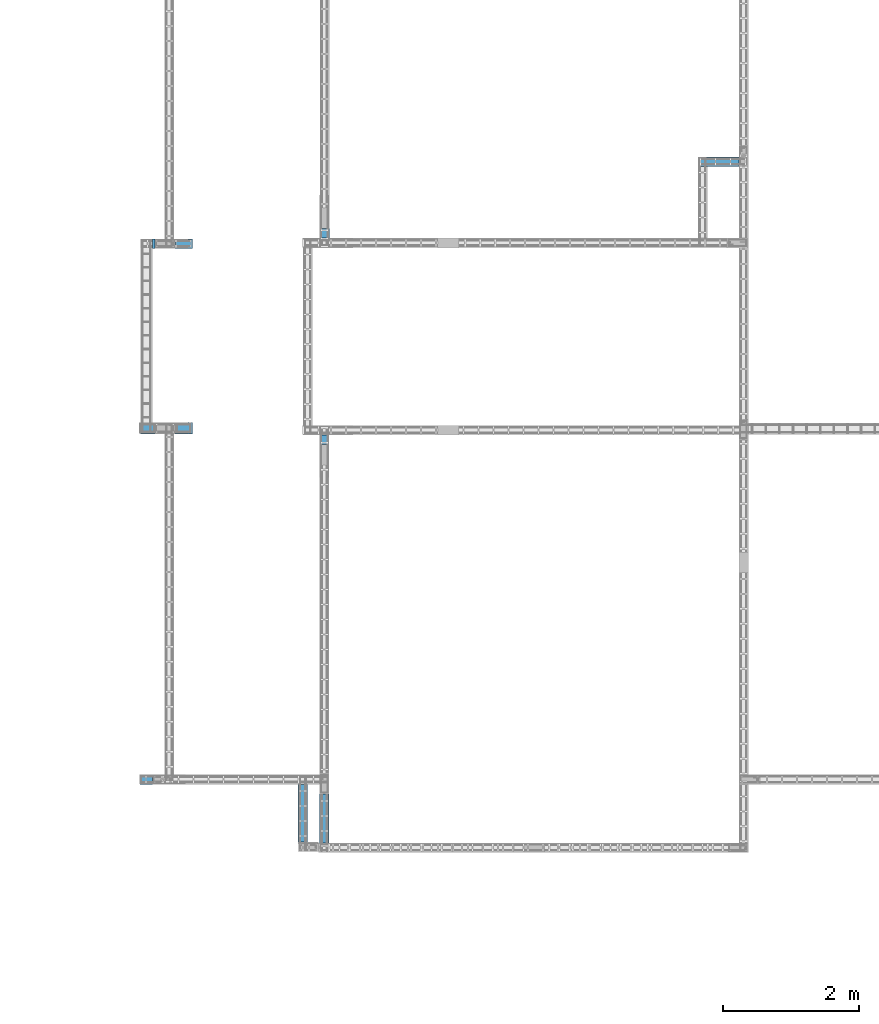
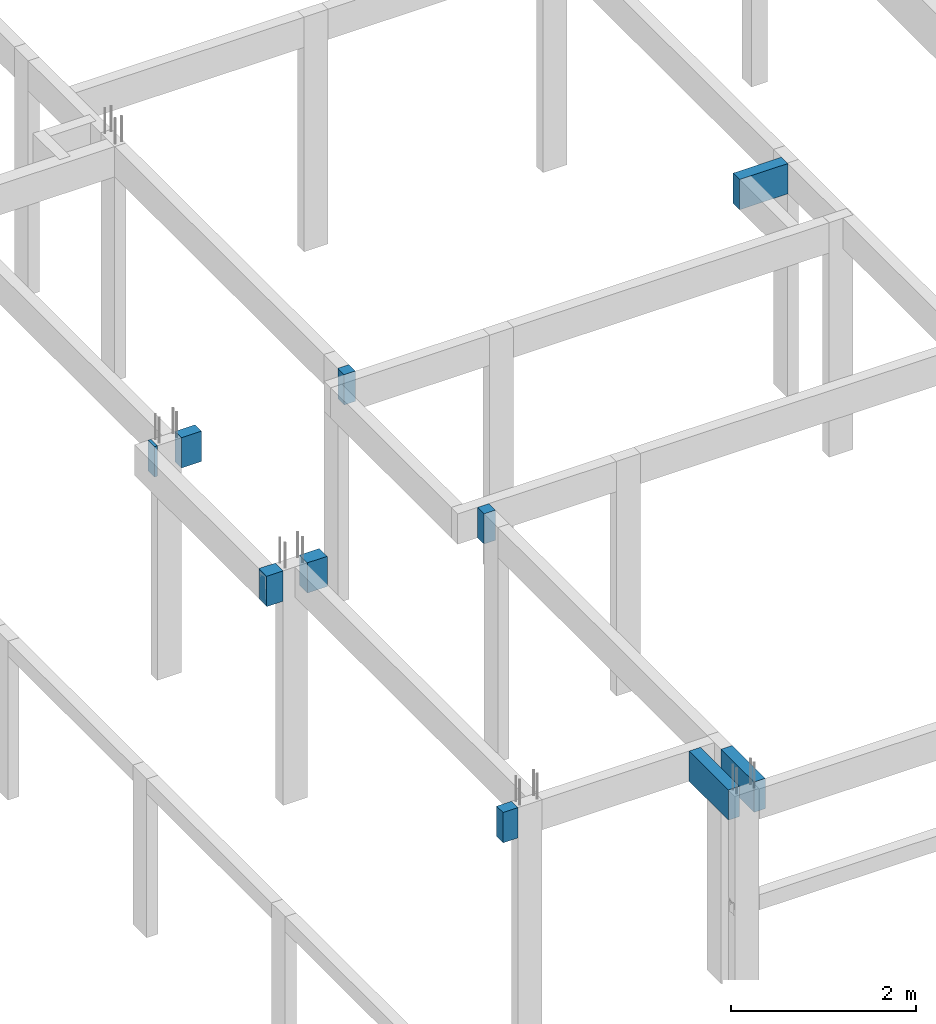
# One storey, part 5 of 236: 10 beams.
"""IFC4 building model written with IfcOpenShell, lengths in centimetres."""

from ifc_helpers import new_model, si_unit, derived_unit, frame, origin_with_axes, origin_2d_with_axis, place, context, project, spatial, rectangle, extrude, material, element, save


model = new_model("IFC4")

# Units and contexts
model_context = context("Model", 3, precision=1e-05, world=origin_with_axes(), identifier="Body")
ifc_project = project(units=[si_unit("LENGTHUNIT", "METRE", prefix="CENTI"), si_unit("VOLUMEUNIT", "CUBIC_METRE"), si_unit("AREAUNIT", "SQUARE_METRE"), si_unit("POWERUNIT", "WATT"), si_unit("LUMINOUSFLUXUNIT", "LUMEN"), si_unit("ELECTRICCURRENTUNIT", "AMPERE"), si_unit("PRESSUREUNIT", "PASCAL", prefix="KILO"), si_unit("MASSUNIT", "GRAM", prefix="KILO"), si_unit("PLANEANGLEUNIT", "RADIAN"), derived_unit("VOLUMETRICFLOWRATEUNIT", [(si_unit("LENGTHUNIT", "METRE"), 3), (si_unit("TIMEUNIT", "SECOND"), -1)])], contexts=[model_context])

# Site, building, storey
site_placement = place(None, frame((-4000.0, 0.0, 0.0), z_axis=(0.0, 0.0, 1.0), x_axis=(1.0, 0.0, 0.0)))
site = spatial("IfcSite", under=ifc_project, at=site_placement, Name="PADRÃO")
building_placement = place(site_placement, frame((0.0, 0.0, -14.0)))
building = spatial("IfcBuilding", under=site, at=building_placement, Name="CRECHE PRÉ-ESCOLA TIPO 2")
placement_1 = place(building_placement, origin_with_axes())
placement_2 = place(placement_1, frame((0.0, 0.0, 30.0), z_axis=(0.0, 0.0, 1.0), x_axis=(1.0, 0.0, 0.0)))
storey_placement = place(placement_2, frame((0.0, 0.0, 310.0), z_axis=(0.0, 0.0, 1.0), x_axis=(1.0, 0.0, 0.0)))
storey = spatial("IfcBuildingStorey", under=building, at=storey_placement, Name="TERREO", CompositionType="ELEMENT", Elevation=326.0)

# Beams
ifc_material = material(Name="Concreto")
beam_1_placement = place(storey_placement, frame((1081.61, 1421.5, 0.0), z_axis=(0.0, 0.0, 1.0), x_axis=(1.0, 0.0, 0.0)))
element("IfcBeam", 1, at=beam_1_placement, inside=storey, material=ifc_material, Name="V240", context=model_context, shape_type="SolidModel", body=[
    extrude(rectangle(XDim=14.0, YDim=40.0, at=origin_2d_with_axis()), frame((-30.11, 0.0, -20.0), z_axis=(1.0, 0.0, 0.0), x_axis=(0.0, 1.0, 0.0)), (0.0, 0.0, 1.0), 60.22),
])
beam_2_placement = place(storey_placement, frame((297.0, 1301.5, 0.0), z_axis=(0.0, 0.0, 1.0), x_axis=(1.0, 0.0, 0.0)))
element("IfcBeam", 2, at=beam_2_placement, inside=storey, material=ifc_material, Name="V241", context=model_context, shape_type="SolidModel", body=[
    extrude(rectangle(XDim=14.0, YDim=40.0, at=origin_2d_with_axis()), frame((-12.5, 0.0, -20.0), z_axis=(1.0, 0.0, 0.0), x_axis=(0.0, 1.0, 0.0)), (0.0, 0.0, 1.0), 25.0),
])
beam_3_placement = place(storey_placement, frame((252.675, 1301.5, 0.0), z_axis=(0.0, 0.0, 1.0), x_axis=(1.0, 0.0, 0.0)))
element("IfcBeam", 3, at=beam_3_placement, inside=storey, material=ifc_material, Name="V241", context=model_context, shape_type="SolidModel", body=[
    extrude(rectangle(XDim=14.0, YDim=40.0, at=origin_2d_with_axis()), frame((-1.825, 0.0, -20.0), z_axis=(1.0, 0.0, 0.0), x_axis=(0.0, 1.0, 0.0)), (0.0, 0.0, 1.0), 3.65),
])
beam_4_placement = place(storey_placement, frame((297.0, 1030.5, 0.0), z_axis=(0.0, 0.0, 1.0), x_axis=(1.0, 0.0, 0.0)))
element("IfcBeam", 4, at=beam_4_placement, inside=storey, material=ifc_material, Name="V245", context=model_context, shape_type="SolidModel", body=[
    extrude(rectangle(XDim=17.0, YDim=40.0, at=origin_2d_with_axis()), frame((-12.5, 0.0, -20.0), z_axis=(1.0, 0.0, 0.0), x_axis=(0.0, 1.0, 0.0)), (0.0, 0.0, 1.0), 25.0),
])
beam_5_placement = place(storey_placement, frame((244.175, 1030.5, 0.0), z_axis=(0.0, 0.0, 1.0), x_axis=(1.0, 0.0, 0.0)))
element("IfcBeam", 5, at=beam_5_placement, inside=storey, material=ifc_material, Name="V245", context=model_context, shape_type="SolidModel", body=[
    extrude(rectangle(XDim=17.0, YDim=40.0, at=origin_2d_with_axis()), frame((-10.325, 0.0, -20.0), z_axis=(1.0, 0.0, 0.0), x_axis=(0.0, 1.0, 0.0)), (0.0, 0.0, 1.0), 20.65),
])
beam_6_placement = place(storey_placement, frame((241.75, 515.0, 0.0), z_axis=(0.0, 0.0, 1.0), x_axis=(1.0, 0.0, 0.0)))
element("IfcBeam", 6, at=beam_6_placement, inside=storey, material=ifc_material, Name="V253", context=model_context, shape_type="SolidModel", body=[
    extrude(rectangle(XDim=14.0, YDim=40.0, at=origin_2d_with_axis()), frame((-9.25, 0.0, -20.0), z_axis=(1.0, 0.0, 0.0), x_axis=(0.0, 1.0, 0.0)), (0.0, 0.0, 1.0), 18.5),
])
beam_7_placement = place(storey_placement, frame((503.57, 1013.51, 0.0), z_axis=(0.0, 0.0, 1.0), x_axis=(1.0, 0.0, 0.0)))
element("IfcBeam", 7, at=beam_7_placement, inside=storey, material=ifc_material, Name="V265", context=model_context, shape_type="SolidModel", body=[
    extrude(rectangle(XDim=14.0, YDim=40.0, at=origin_2d_with_axis()), frame((0.0, -7.0, -20.0), z_axis=(0.0, 1.0, 0.0), x_axis=(-1.0, 0.0, 0.0)), (0.0, 0.0, 1.0), 14.0),
])
beam_8_placement = place(storey_placement, frame((503.57, 457.755, 0.0), z_axis=(0.0, 0.0, 1.0), x_axis=(1.0, 0.0, 0.0)))
element("IfcBeam", 8, at=beam_8_placement, inside=storey, material=ifc_material, Name="V265", context=model_context, shape_type="SolidModel", body=[
    extrude(rectangle(XDim=14.0, YDim=40.0, at=origin_2d_with_axis()), frame((0.0, -35.755, -20.0), z_axis=(0.0, 1.0, 0.0), x_axis=(1.0, 0.0, 0.0)), (0.0, 0.0, 1.0), 71.51),
])
beam_9_placement = place(storey_placement, frame((472.0, 465.5, 0.0), z_axis=(0.0, 0.0, 1.0), x_axis=(1.0, 0.0, 0.0)))
element("IfcBeam", 9, at=beam_9_placement, inside=storey, material=ifc_material, Name="V266", context=model_context, shape_type="SolidModel", body=[
    extrude(rectangle(XDim=14.0, YDim=40.0, at=origin_2d_with_axis()), frame((0.0, -42.5, -20.0), z_axis=(0.0, 1.0, 0.0), x_axis=(1.0, 0.0, 0.0)), (0.0, 0.0, 1.0), 85.0),
])
beam_10_placement = place(storey_placement, frame((503.69, 1316.505, 0.0), z_axis=(0.0, 0.0, 1.0), x_axis=(1.0, 0.0, 0.0)))
element("IfcBeam", 10, at=beam_10_placement, inside=storey, material=ifc_material, Name="V270", context=model_context, shape_type="SolidModel", body=[
    extrude(rectangle(XDim=14.0, YDim=40.0, at=origin_2d_with_axis()), frame((0.0, -7.005, -20.0), z_axis=(0.0, 1.0, 0.0), x_axis=(-1.0, 0.0, 0.0)), (0.0, 0.0, 1.0), 14.01),
])

save(model, "model.ifc")
